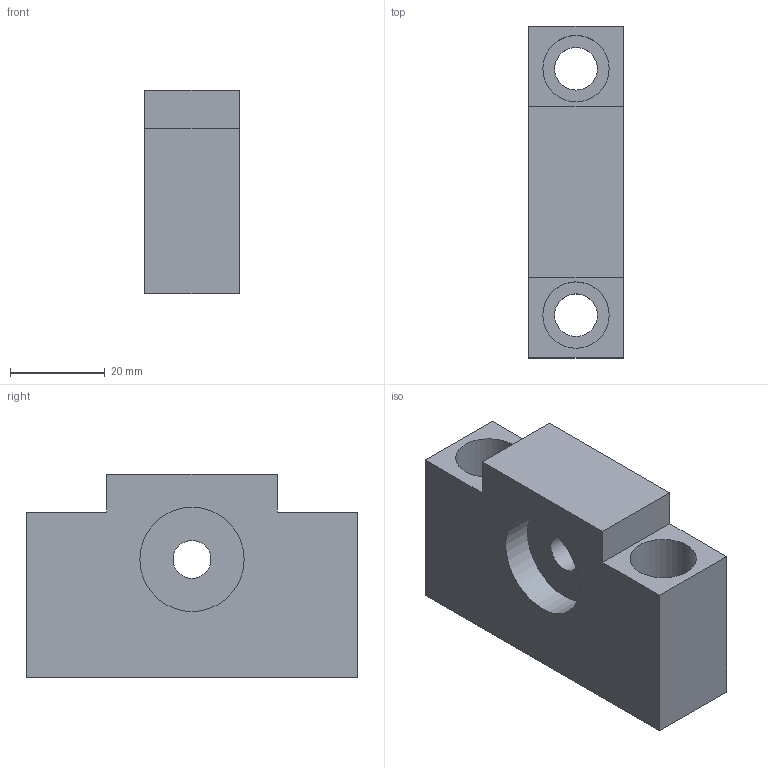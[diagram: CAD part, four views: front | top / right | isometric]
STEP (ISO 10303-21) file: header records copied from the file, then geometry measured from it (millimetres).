
FILE_DESCRIPTION((''),'2;1');
FILE_NAME('D:\製品 (図面)\カタログ用3D\ネジ関連\STEP形式\FH\FH10.stp','2010-06-01T16:43:24',('Tsuchiya'),(''),'Autodesk Inventor 10','Autodesk Inventor 10','');
FILE_SCHEMA(('AUTOMOTIVE_DESIGN { 1 0 10303 214 1 1 1 1 }'));
Length unit declared in the file: millimetre
Products named in the file (1): FH10
Bounding box: 20 x 70 x 43 mm (x, y, z)
Volume: 43027.2 mm3; surface area: 13039.6 mm2
Topology: 1 solids, 1 shells, 21 faces, 45 edges, 30 vertices
Faces by surface type: plane 12, bspline 6, cylinder 3
Full cylindrical faces by diameter (mm): 8 x1, 22 x2
Entity records: 625 total; most frequent: CARTESIAN_POINT 164, DIRECTION 84, ORIENTED_EDGE 76, EDGE_CURVE 38, EDGE_LOOP 38, AXIS2_PLACEMENT_3D 30, VERTEX_POINT 30, VECTOR 24
